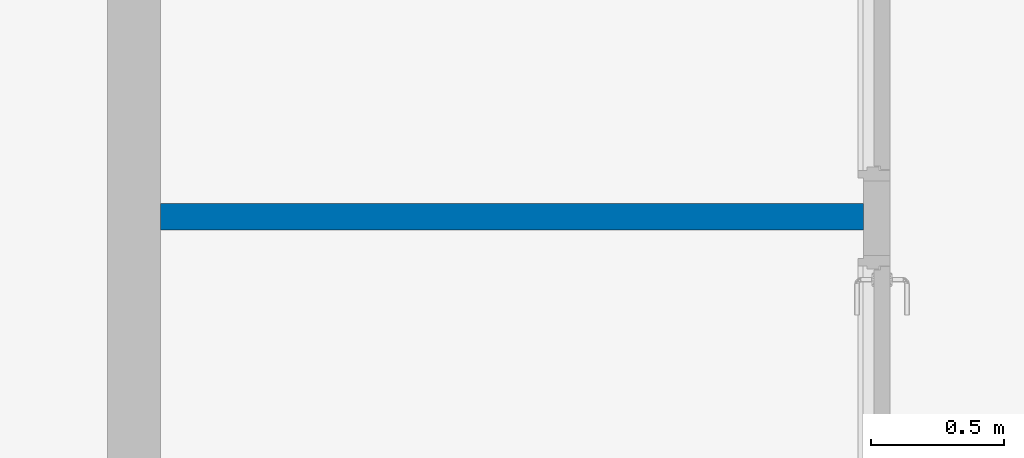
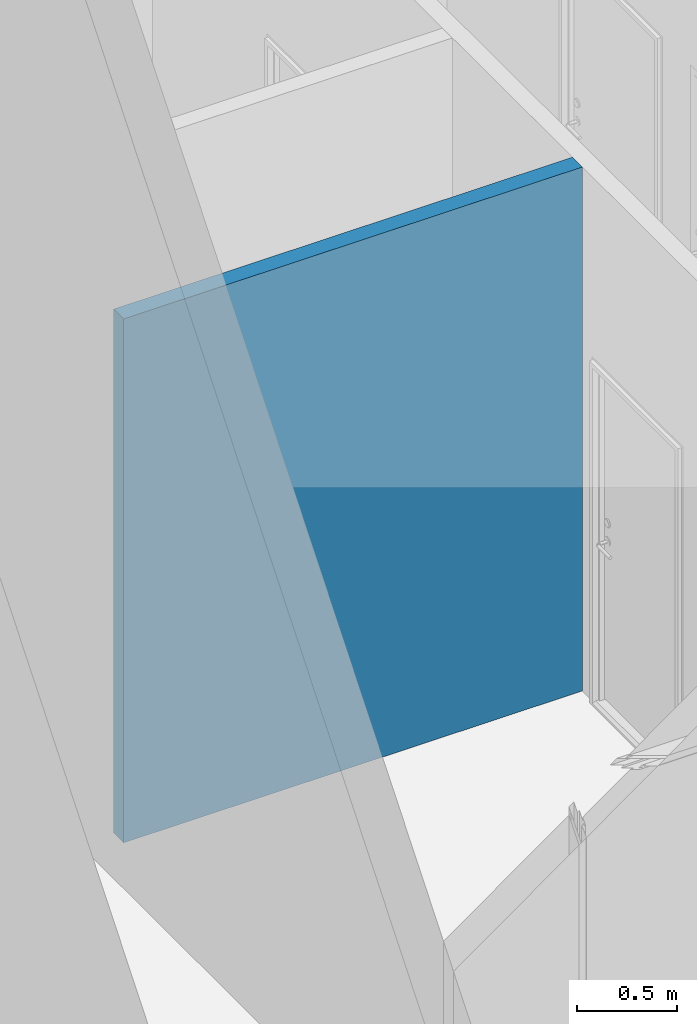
# One storey, part 11 of 23: 1 wall.
"""IFC2X3 building model written with IfcOpenShell, lengths in millimetres."""

from ifc_helpers import new_model, entity, si_unit, converted_unit, direction, frame, frame_2d, origin, place, context, subcontext, project, spatial, rectangle, extrude, material, layer, layer_set, layer_usage, type_object, element, save


model = new_model("IFC2X3")

# Units and contexts
model_context = context("Model", 3, precision=0.01, world=origin(), true_north=direction((6.123031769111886e-17, 1.0)))
body_context = subcontext(model_context, "Body", "Model", "MODEL_VIEW")
ifc_project = project(units=[si_unit("LENGTHUNIT", "METRE", prefix="MILLI"), converted_unit("PLANEANGLEUNIT", "DEGREE", entity("IfcPlaneAngleMeasure", 0.017453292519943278), si_unit("PLANEANGLEUNIT", "RADIAN"), dimensions=[0, 0, 0, 0, 0, 0, 0]), si_unit("AREAUNIT", "SQUARE_METRE")], contexts=[model_context])

# Site, building, storey
site_placement = place(None, frame((7776.576483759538, 118.3519876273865, 0.0)))
site = spatial("IfcSite", under=ifc_project, at=site_placement, Name="Default", CompositionType="ELEMENT")
building_placement = place(site_placement, origin())
building = spatial("IfcBuilding", under=site, at=building_placement, Name="Bygning (endres i Project Information)", CompositionType="ELEMENT")
storey_placement = place(building_placement, frame((0.0, 0.0, 19000.0)))
storey = spatial("IfcBuildingStorey", under=building, at=storey_placement, Name="Plan 01", CompositionType="ELEMENT", Elevation=19000.0)

# Wall
ifc_material = material(Name="Default Wall")
ifc_layer = layer(ifc_material, 100.0)
ifc_layer_set = layer_set([ifc_layer], Name="Basic Wall:Generic - 100mm")
ifc_layer_usage = layer_usage(ifc_layer_set, "AXIS2", "NEGATIVE", 50.0)
wall_type = type_object("IfcWallType", Name="Basic Wall:Generic - 100mm", PredefinedType="STANDARD", material=ifc_layer_set)
wall_placement = place(storey_placement, frame((32224.00137486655, 25047.757305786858, 0.0)))
element("IfcWallStandardCase", 1, at=wall_placement, inside=storey, type_object=wall_type, material=ifc_layer_usage, Name="Basic Wall:Generic - 100mm", ObjectType="Basic Wall:Generic - 100mm", context=body_context, shape_type="SweptSolid", body=[
    extrude(rectangle(XDim=2649.9999999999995, YDim=100.00000000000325, at=frame_2d((1324.9999999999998, 8.526512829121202e-14), x_axis=(-1.0, 0.0))), origin(), (0.0, 0.0, 1.0), 3200.0),
])

save(model, "model.ifc")
